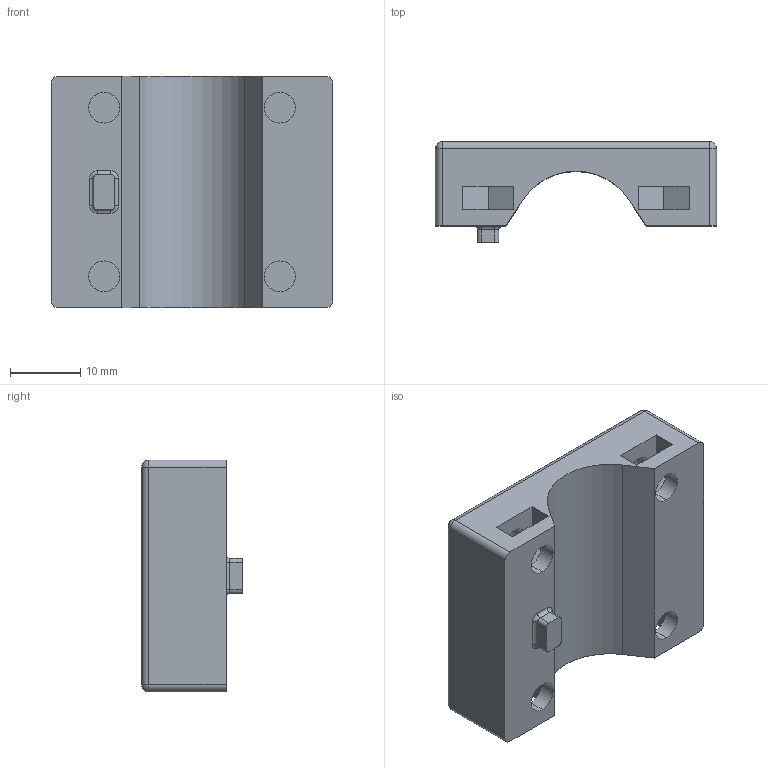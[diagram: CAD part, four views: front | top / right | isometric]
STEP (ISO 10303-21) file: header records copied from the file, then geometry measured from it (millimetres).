
FILE_DESCRIPTION (( 'STEP AP203' ), '1' );
FILE_NAME ('douille_top.STEP', '2020-03-27T11:10:26', ( '' ), ( '' ), 'SwSTEP 2.0', 'SolidWorks 2020', '' );
FILE_SCHEMA (( 'CONFIG_CONTROL_DESIGN' ));
Length unit declared in the file: millimetre
Products named in the file (1): douille_top
Bounding box: 40 x 14.3 x 33 mm (x, y, z)
Volume: 11163.5 mm3; surface area: 5185.5 mm2
Topology: 1 solids, 1 shells, 83 faces, 200 edges, 124 vertices
Faces by surface type: plane 42, cylinder 33, sphere 4, torus 4
Entity records: 2473 total; most frequent: DIRECTION 434, CARTESIAN_POINT 404, ORIENTED_EDGE 392, EDGE_CURVE 196, AXIS2_PLACEMENT_3D 154, VECTOR 126, LINE 126, VERTEX_POINT 124
